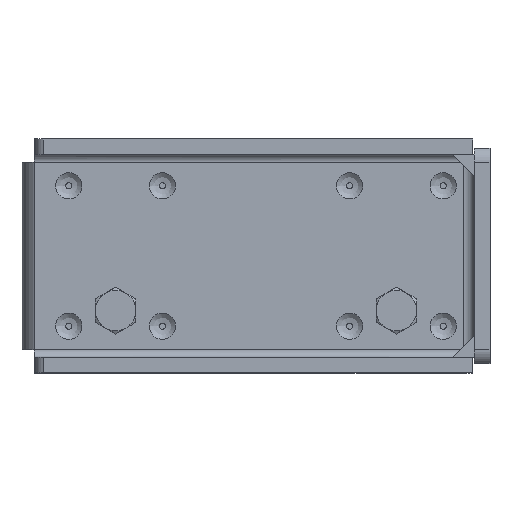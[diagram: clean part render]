
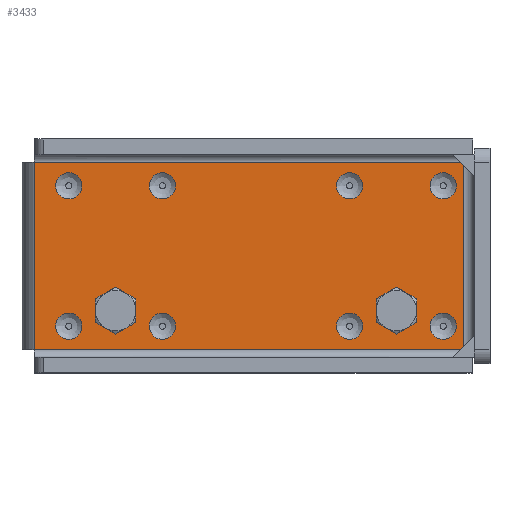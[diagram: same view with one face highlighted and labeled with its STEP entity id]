
A CAD part, top view. The second image highlights one B-rep face of the part: STEP entity #3433.
In plain terms, the highlighted planar face has unit normal (0, 0, 1).
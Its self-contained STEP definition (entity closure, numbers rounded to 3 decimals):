
#100=FACE_BOUND('',#712,.T.);
#101=FACE_BOUND('',#713,.T.);
#102=FACE_BOUND('',#714,.T.);
#103=FACE_BOUND('',#715,.T.);
#104=FACE_BOUND('',#716,.T.);
#105=FACE_BOUND('',#717,.T.);
#106=FACE_BOUND('',#718,.T.);
#107=FACE_BOUND('',#719,.T.);
#108=FACE_BOUND('',#720,.T.);
#109=FACE_BOUND('',#721,.T.);
#234=CIRCLE('',#3718,6.);
#235=CIRCLE('',#3719,6.);
#236=CIRCLE('',#3720,4.2);
#237=CIRCLE('',#3721,4.2);
#238=CIRCLE('',#3722,4.2);
#239=CIRCLE('',#3723,4.2);
#240=CIRCLE('',#3724,4.2);
#241=CIRCLE('',#3725,4.2);
#242=CIRCLE('',#3726,4.2);
#243=CIRCLE('',#3727,4.2);
#244=CIRCLE('',#3728,4.2);
#245=CIRCLE('',#3729,4.2);
#246=CIRCLE('',#3730,4.2);
#247=CIRCLE('',#3731,4.2);
#248=CIRCLE('',#3732,4.2);
#249=CIRCLE('',#3733,4.2);
#250=CIRCLE('',#3734,4.2);
#251=CIRCLE('',#3735,4.2);
#471=FACE_OUTER_BOUND('',#711,.T.);
#711=EDGE_LOOP('',(#2512,#2513,#2514,#2515));
#712=EDGE_LOOP('',(#2516));
#713=EDGE_LOOP('',(#2517));
#714=EDGE_LOOP('',(#2518,#2519));
#715=EDGE_LOOP('',(#2520,#2521));
#716=EDGE_LOOP('',(#2522,#2523));
#717=EDGE_LOOP('',(#2524,#2525));
#718=EDGE_LOOP('',(#2526,#2527));
#719=EDGE_LOOP('',(#2528,#2529));
#720=EDGE_LOOP('',(#2530,#2531));
#721=EDGE_LOOP('',(#2532,#2533));
#1013=LINE('',#5630,#1284);
#1023=LINE('',#5688,#1294);
#1024=LINE('',#5690,#1295);
#1025=LINE('',#5691,#1296);
#1284=VECTOR('',#4242,137.5);
#1294=VECTOR('',#4300,60.);
#1295=VECTOR('',#4301,137.5);
#1296=VECTOR('',#4302,60.);
#1541=VERTEX_POINT('',#5435);
#1544=VERTEX_POINT('',#5443);
#1570=VERTEX_POINT('',#5687);
#1571=VERTEX_POINT('',#5689);
#1572=VERTEX_POINT('',#5692);
#1573=VERTEX_POINT('',#5694);
#1574=VERTEX_POINT('',#5696);
#1575=VERTEX_POINT('',#5697);
#1576=VERTEX_POINT('',#5700);
#1577=VERTEX_POINT('',#5701);
#1578=VERTEX_POINT('',#5704);
#1579=VERTEX_POINT('',#5705);
#1580=VERTEX_POINT('',#5708);
#1581=VERTEX_POINT('',#5709);
#1582=VERTEX_POINT('',#5712);
#1583=VERTEX_POINT('',#5713);
#1584=VERTEX_POINT('',#5716);
#1585=VERTEX_POINT('',#5717);
#1586=VERTEX_POINT('',#5720);
#1587=VERTEX_POINT('',#5721);
#1588=VERTEX_POINT('',#5724);
#1589=VERTEX_POINT('',#5725);
#1894=EDGE_CURVE('',#1544,#1541,#1013,.T.);
#1923=EDGE_CURVE('',#1570,#1541,#1023,.T.);
#1924=EDGE_CURVE('',#1570,#1571,#1024,.T.);
#1925=EDGE_CURVE('',#1571,#1544,#1025,.T.);
#1926=EDGE_CURVE('',#1572,#1572,#234,.T.);
#1927=EDGE_CURVE('',#1573,#1573,#235,.T.);
#1928=EDGE_CURVE('',#1574,#1575,#236,.T.);
#1929=EDGE_CURVE('',#1575,#1574,#237,.T.);
#1930=EDGE_CURVE('',#1576,#1577,#238,.T.);
#1931=EDGE_CURVE('',#1577,#1576,#239,.T.);
#1932=EDGE_CURVE('',#1578,#1579,#240,.T.);
#1933=EDGE_CURVE('',#1579,#1578,#241,.T.);
#1934=EDGE_CURVE('',#1580,#1581,#242,.T.);
#1935=EDGE_CURVE('',#1581,#1580,#243,.T.);
#1936=EDGE_CURVE('',#1582,#1583,#244,.T.);
#1937=EDGE_CURVE('',#1583,#1582,#245,.T.);
#1938=EDGE_CURVE('',#1584,#1585,#246,.T.);
#1939=EDGE_CURVE('',#1585,#1584,#247,.T.);
#1940=EDGE_CURVE('',#1586,#1587,#248,.T.);
#1941=EDGE_CURVE('',#1587,#1586,#249,.T.);
#1942=EDGE_CURVE('',#1588,#1589,#250,.T.);
#1943=EDGE_CURVE('',#1589,#1588,#251,.T.);
#2512=ORIENTED_EDGE('',*,*,#1894,.T.);
#2513=ORIENTED_EDGE('',*,*,#1923,.F.);
#2514=ORIENTED_EDGE('',*,*,#1924,.T.);
#2515=ORIENTED_EDGE('',*,*,#1925,.T.);
#2516=ORIENTED_EDGE('',*,*,#1926,.T.);
#2517=ORIENTED_EDGE('',*,*,#1927,.T.);
#2518=ORIENTED_EDGE('',*,*,#1928,.T.);
#2519=ORIENTED_EDGE('',*,*,#1929,.T.);
#2520=ORIENTED_EDGE('',*,*,#1930,.T.);
#2521=ORIENTED_EDGE('',*,*,#1931,.T.);
#2522=ORIENTED_EDGE('',*,*,#1932,.T.);
#2523=ORIENTED_EDGE('',*,*,#1933,.T.);
#2524=ORIENTED_EDGE('',*,*,#1934,.T.);
#2525=ORIENTED_EDGE('',*,*,#1935,.T.);
#2526=ORIENTED_EDGE('',*,*,#1936,.T.);
#2527=ORIENTED_EDGE('',*,*,#1937,.T.);
#2528=ORIENTED_EDGE('',*,*,#1938,.T.);
#2529=ORIENTED_EDGE('',*,*,#1939,.T.);
#2530=ORIENTED_EDGE('',*,*,#1940,.T.);
#2531=ORIENTED_EDGE('',*,*,#1941,.T.);
#2532=ORIENTED_EDGE('',*,*,#1942,.T.);
#2533=ORIENTED_EDGE('',*,*,#1943,.T.);
#3275=PLANE('',#3717);
#3433=ADVANCED_FACE('',(#471,#100,#101,#102,#103,#104,#105,#106,#107,#108,
#109),#3275,.T.);
#3717=AXIS2_PLACEMENT_3D('',#5686,#4298,#4299);
#3718=AXIS2_PLACEMENT_3D('',#5693,#4303,#4304);
#3719=AXIS2_PLACEMENT_3D('',#5695,#4305,#4306);
#3720=AXIS2_PLACEMENT_3D('',#5698,#4307,#4308);
#3721=AXIS2_PLACEMENT_3D('',#5699,#4309,#4310);
#3722=AXIS2_PLACEMENT_3D('',#5702,#4311,#4312);
#3723=AXIS2_PLACEMENT_3D('',#5703,#4313,#4314);
#3724=AXIS2_PLACEMENT_3D('',#5706,#4315,#4316);
#3725=AXIS2_PLACEMENT_3D('',#5707,#4317,#4318);
#3726=AXIS2_PLACEMENT_3D('',#5710,#4319,#4320);
#3727=AXIS2_PLACEMENT_3D('',#5711,#4321,#4322);
#3728=AXIS2_PLACEMENT_3D('',#5714,#4323,#4324);
#3729=AXIS2_PLACEMENT_3D('',#5715,#4325,#4326);
#3730=AXIS2_PLACEMENT_3D('',#5718,#4327,#4328);
#3731=AXIS2_PLACEMENT_3D('',#5719,#4329,#4330);
#3732=AXIS2_PLACEMENT_3D('',#5722,#4331,#4332);
#3733=AXIS2_PLACEMENT_3D('',#5723,#4333,#4334);
#3734=AXIS2_PLACEMENT_3D('',#5726,#4335,#4336);
#3735=AXIS2_PLACEMENT_3D('',#5727,#4337,#4338);
#4242=DIRECTION('',(-1.,0.,0.));
#4298=DIRECTION('center_axis',(0.,0.,1.));
#4299=DIRECTION('ref_axis',(1.,0.,0.));
#4300=DIRECTION('',(0.,1.,0.));
#4301=DIRECTION('',(1.,0.,0.));
#4302=DIRECTION('',(0.,1.,0.));
#4303=DIRECTION('center_axis',(0.,0.,-1.));
#4304=DIRECTION('ref_axis',(-1.,0.,0.));
#4305=DIRECTION('center_axis',(0.,0.,-1.));
#4306=DIRECTION('ref_axis',(-1.,0.,0.));
#4307=DIRECTION('center_axis',(0.,0.,-1.));
#4308=DIRECTION('ref_axis',(-1.,0.,0.));
#4309=DIRECTION('center_axis',(0.,0.,-1.));
#4310=DIRECTION('ref_axis',(-1.,0.,0.));
#4311=DIRECTION('center_axis',(0.,0.,-1.));
#4312=DIRECTION('ref_axis',(-1.,0.,0.));
#4313=DIRECTION('center_axis',(0.,0.,-1.));
#4314=DIRECTION('ref_axis',(-1.,0.,0.));
#4315=DIRECTION('center_axis',(0.,0.,-1.));
#4316=DIRECTION('ref_axis',(-1.,0.,0.));
#4317=DIRECTION('center_axis',(0.,0.,-1.));
#4318=DIRECTION('ref_axis',(-1.,0.,0.));
#4319=DIRECTION('center_axis',(0.,0.,-1.));
#4320=DIRECTION('ref_axis',(-1.,0.,0.));
#4321=DIRECTION('center_axis',(0.,0.,-1.));
#4322=DIRECTION('ref_axis',(-1.,0.,0.));
#4323=DIRECTION('center_axis',(0.,0.,-1.));
#4324=DIRECTION('ref_axis',(-1.,0.,0.));
#4325=DIRECTION('center_axis',(0.,0.,-1.));
#4326=DIRECTION('ref_axis',(-1.,0.,0.));
#4327=DIRECTION('center_axis',(0.,0.,-1.));
#4328=DIRECTION('ref_axis',(-1.,0.,0.));
#4329=DIRECTION('center_axis',(0.,0.,-1.));
#4330=DIRECTION('ref_axis',(-1.,0.,0.));
#4331=DIRECTION('center_axis',(0.,0.,-1.));
#4332=DIRECTION('ref_axis',(-1.,0.,0.));
#4333=DIRECTION('center_axis',(0.,0.,-1.));
#4334=DIRECTION('ref_axis',(-1.,0.,0.));
#4335=DIRECTION('center_axis',(0.,0.,-1.));
#4336=DIRECTION('ref_axis',(-1.,0.,0.));
#4337=DIRECTION('center_axis',(0.,0.,-1.));
#4338=DIRECTION('ref_axis',(-1.,0.,0.));
#5435=CARTESIAN_POINT('',(0.,30.,5.));
#5443=CARTESIAN_POINT('',(137.5,30.,5.));
#5630=CARTESIAN_POINT('',(113.553,30.,5.));
#5686=CARTESIAN_POINT('Origin',(89.606,0.,5.));
#5687=CARTESIAN_POINT('',(0.,-30.,5.));
#5688=CARTESIAN_POINT('',(0.,40.5,5.));
#5689=CARTESIAN_POINT('',(137.5,-30.,5.));
#5690=CARTESIAN_POINT('',(44.803,-30.,5.));
#5691=CARTESIAN_POINT('',(137.5,-15.921,5.));
#5692=CARTESIAN_POINT('',(32.,-17.5,5.));
#5693=CARTESIAN_POINT('Origin',(26.,-17.5,5.));
#5694=CARTESIAN_POINT('',(122.,-17.5,5.));
#5695=CARTESIAN_POINT('Origin',(116.,-17.5,5.));
#5696=CARTESIAN_POINT('',(105.2,22.5,5.));
#5697=CARTESIAN_POINT('',(96.8,22.5,5.));
#5698=CARTESIAN_POINT('Origin',(101.,22.5,5.));
#5699=CARTESIAN_POINT('Origin',(101.,22.5,5.));
#5700=CARTESIAN_POINT('',(135.2,-22.5,5.));
#5701=CARTESIAN_POINT('',(126.8,-22.5,5.));
#5702=CARTESIAN_POINT('Origin',(131.,-22.5,5.));
#5703=CARTESIAN_POINT('Origin',(131.,-22.5,5.));
#5704=CARTESIAN_POINT('',(45.2,22.5,5.));
#5705=CARTESIAN_POINT('',(36.8,22.5,5.));
#5706=CARTESIAN_POINT('Origin',(41.,22.5,5.));
#5707=CARTESIAN_POINT('Origin',(41.,22.5,5.));
#5708=CARTESIAN_POINT('',(105.2,-22.5,5.));
#5709=CARTESIAN_POINT('',(96.8,-22.5,5.));
#5710=CARTESIAN_POINT('Origin',(101.,-22.5,5.));
#5711=CARTESIAN_POINT('Origin',(101.,-22.5,5.));
#5712=CARTESIAN_POINT('',(45.2,-22.5,5.));
#5713=CARTESIAN_POINT('',(36.8,-22.5,5.));
#5714=CARTESIAN_POINT('Origin',(41.,-22.5,5.));
#5715=CARTESIAN_POINT('Origin',(41.,-22.5,5.));
#5716=CARTESIAN_POINT('',(15.2,22.5,5.));
#5717=CARTESIAN_POINT('',(6.8,22.5,5.));
#5718=CARTESIAN_POINT('Origin',(11.,22.5,5.));
#5719=CARTESIAN_POINT('Origin',(11.,22.5,5.));
#5720=CARTESIAN_POINT('',(15.2,-22.5,5.));
#5721=CARTESIAN_POINT('',(6.8,-22.5,5.));
#5722=CARTESIAN_POINT('Origin',(11.,-22.5,5.));
#5723=CARTESIAN_POINT('Origin',(11.,-22.5,5.));
#5724=CARTESIAN_POINT('',(135.2,22.5,5.));
#5725=CARTESIAN_POINT('',(126.8,22.5,5.));
#5726=CARTESIAN_POINT('Origin',(131.,22.5,5.));
#5727=CARTESIAN_POINT('Origin',(131.,22.5,5.));
